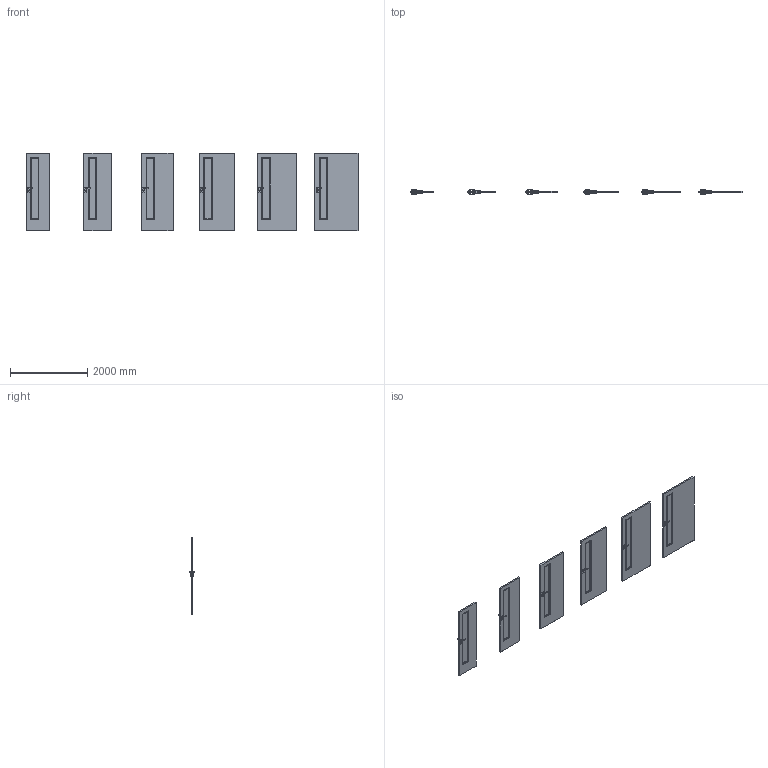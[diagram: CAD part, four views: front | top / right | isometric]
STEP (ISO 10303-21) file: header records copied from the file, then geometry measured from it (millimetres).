
FILE_DESCRIPTION(/* description */ (''),/* implementation_level */ '2;1');
FILE_NAME(/* name */ '049718_A_2-Skrzydło CPL model 1.5_ polska norma _PN__ bezprzylgowe..stp',/* time_stamp */ '2024-02-16T10:51:08+01:00',/* author */ (''),/* organization */ (''),/* preprocessor_version */ 'ST-DEVELOPER v16',/* originating_system */ 'SIEMENS PLM Software NX 11.0',/* authorisation */ '');
FILE_SCHEMA (('AUTOMOTIVE_DESIGN { 1 0 10303 214 3 1 1 1 }'));
Products named in the file (1): bkni4C70E1ECxvnc
Bounding box: 8618 x 153.27 x 2017 mm (x, y, z)
Volume: 377223505.9 mm3; surface area: 39969255 mm2
Topology: 217 solids, 217 shells, 4008 faces, 10194 edges, 6500 vertices
Faces by surface type: plane 2370, bspline 1182, cylinder 288, sphere 168
Entity records: 135492 total; most frequent: CARTESIAN_POINT 47835, ORIENTED_EDGE 20052, DIRECTION 14240, EDGE_CURVE 10026, LINE 6786, VECTOR 6786, VERTEX_POINT 6500, EDGE_LOOP 4092
